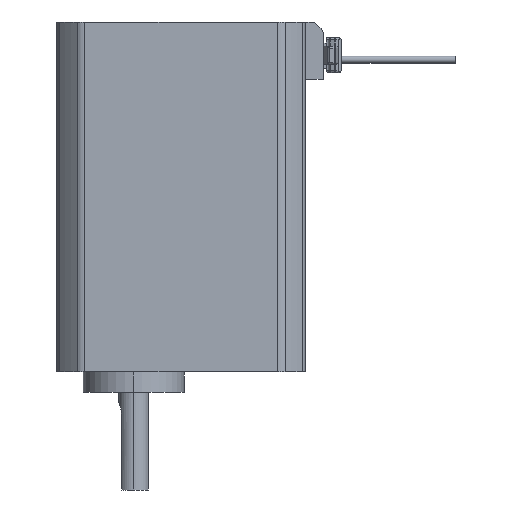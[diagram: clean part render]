
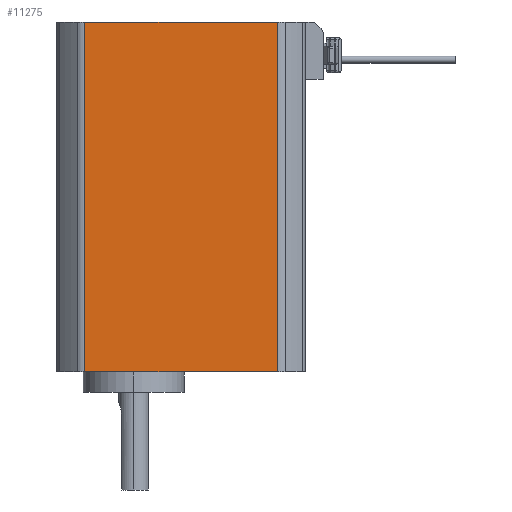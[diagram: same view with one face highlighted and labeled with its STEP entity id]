
A CAD part, left-side view. The second image highlights one B-rep face of the part: STEP entity #11275.
In plain terms, the highlighted planar face has unit normal (-1, 0, 0).
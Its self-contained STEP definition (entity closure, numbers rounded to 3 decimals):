
#196 = EDGE_CURVE ( 'NONE', #10673, #6173, #3653, .T. ) ;
#1023 = DIRECTION ( 'NONE',  ( 0., -1., 0. ) ) ;
#1130 = AXIS2_PLACEMENT_3D ( 'NONE', #3898, #2919, #12537 ) ;
#1730 = VERTEX_POINT ( 'NONE', #12098 ) ;
#2330 = CARTESIAN_POINT ( 'NONE',  ( -21., 16.248, 33. ) ) ;
#2334 = DIRECTION ( 'NONE',  ( 0., 0., 1. ) ) ;
#2773 = VECTOR ( 'NONE', #1023, 1000. ) ;
#2919 = DIRECTION ( 'NONE',  ( 1., 0., 0. ) ) ;
#3022 = ORIENTED_EDGE ( 'NONE', *, *, #5698, .F. ) ;
#3107 = LINE ( 'NONE', #9419, #4962 ) ;
#3158 = EDGE_CURVE ( 'NONE', #8531, #6173, #10573, .T. ) ;
#3653 = LINE ( 'NONE', #9820, #9591 ) ;
#3764 = CARTESIAN_POINT ( 'NONE',  ( -21., -16.248, 33. ) ) ;
#3879 = ORIENTED_EDGE ( 'NONE', *, *, #3158, .F. ) ;
#3898 = CARTESIAN_POINT ( 'NONE',  ( -21., 16.248, -26. ) ) ;
#4241 = ORIENTED_EDGE ( 'NONE', *, *, #7217, .F. ) ;
#4567 = CARTESIAN_POINT ( 'NONE',  ( -21., 16.248, -26. ) ) ;
#4962 = VECTOR ( 'NONE', #9351, 1000. ) ;
#5673 = CARTESIAN_POINT ( 'NONE',  ( -21., 16.248, 33. ) ) ;
#5698 = EDGE_CURVE ( 'NONE', #1730, #8531, #12856, .T. ) ;
#6173 = VERTEX_POINT ( 'NONE', #3764 ) ;
#6575 = CARTESIAN_POINT ( 'NONE',  ( -21., -16.248, -26. ) ) ;
#7217 = EDGE_CURVE ( 'NONE', #10673, #1730, #3107, .T. ) ;
#7788 = VECTOR ( 'NONE', #2334, 1000. ) ;
#8448 = ORIENTED_EDGE ( 'NONE', *, *, #196, .T. ) ;
#8531 = VERTEX_POINT ( 'NONE', #5673 ) ;
#9351 = DIRECTION ( 'NONE',  ( 0., 1., 0. ) ) ;
#9419 = CARTESIAN_POINT ( 'NONE',  ( -21., 16.248, -26. ) ) ;
#9591 = VECTOR ( 'NONE', #10837, 1000. ) ;
#9820 = CARTESIAN_POINT ( 'NONE',  ( -21., -16.248, -26. ) ) ;
#10396 = FACE_OUTER_BOUND ( 'NONE', #13558, .T. ) ;
#10573 = LINE ( 'NONE', #2330, #2773 ) ;
#10673 = VERTEX_POINT ( 'NONE', #6575 ) ;
#10837 = DIRECTION ( 'NONE',  ( 0., 0., 1. ) ) ;
#11275 = ADVANCED_FACE ( 'NONE', ( #10396 ), #13650, .F. ) ;
#12098 = CARTESIAN_POINT ( 'NONE',  ( -21., 16.248, -26. ) ) ;
#12537 = DIRECTION ( 'NONE',  ( 0., 0., -1. ) ) ;
#12856 = LINE ( 'NONE', #4567, #7788 ) ;
#13558 = EDGE_LOOP ( 'NONE', ( #8448, #3879, #3022, #4241 ) ) ;
#13650 = PLANE ( 'NONE',  #1130 ) ;
